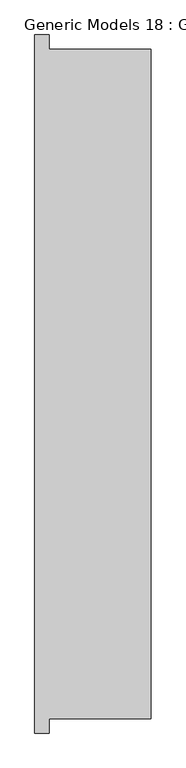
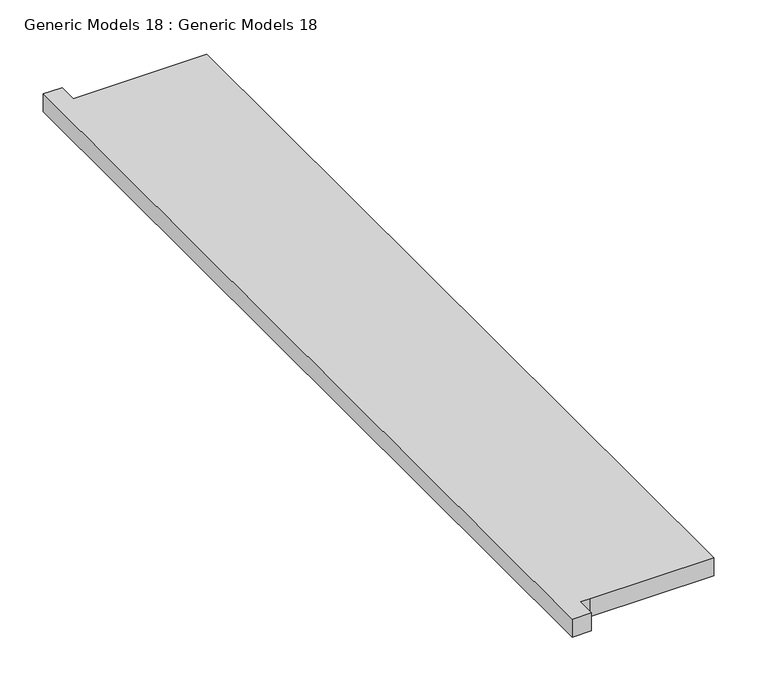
"""IFC4 building model written with IfcOpenShell, lengths in millimetres: proxy geometry, Generic Models 18 : Generic Models 18."""

from ifc_helpers import new_model, si_unit, frame, origin, place, context, project, spatial, polyline, outline, extrude, source, transform, mapped, element, save


def generic_models_18_generic_models_18_dc80c390(model_context):
    return source(origin(), model_context, "Body", "SweptSolid", [
        extrude(outline(polyline([(3898.9, 5994.2947939), (3898.9, 7213.4947939), (3924.3, 7213.4947939), (3924.3, 7188.0947939), (4102.1, 7188.0947939), (4102.1, 6019.6947939), (3937.0, 6019.6947939), (3924.3, 6019.6947939), (3924.3, 5994.2947939), (3898.9, 5994.2947939)])), frame((0.0, 0.0, 4292.6), z_axis=(0.0, 0.0, 1.0), x_axis=(1.0, 0.0, 0.0)), (0.0, 0.0, 1.0), 25.4),
    ])


if __name__ == "__main__":
    model = new_model("IFC4")
    model_context = context("Model", 3, world=origin())
    ifc_project = project(units=[si_unit("LENGTHUNIT", "METRE", prefix="MILLI")], contexts=[model_context])
    site = spatial("IfcSite", under=ifc_project)
    building = spatial("IfcBuilding", under=site)
    placement = place(None, origin())
    generic_models_18_generic_models_18_shape = generic_models_18_generic_models_18_dc80c390(model_context)
    element("IfcBuildingElementProxy", 1, Name="Generic Models 18 : Generic Models 18", ObjectType="Generic Models 18 : Generic Models 18", at=placement, inside=building, context=model_context, shape_type="MappedRepresentation", body=[
        mapped(generic_models_18_generic_models_18_shape, transform((0.0, 0.0, 0.0), x_axis=(1.0, 0.0, 0.0), y_axis=(0.0, 1.0, 0.0), z_axis=(0.0, 0.0, 1.0))),
    ])
    save(model, "model.ifc")
